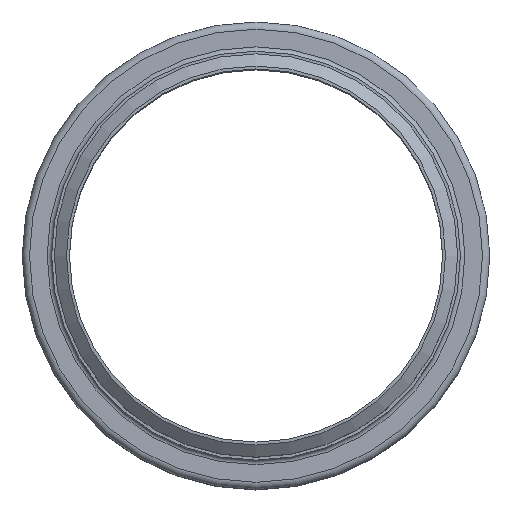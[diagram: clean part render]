
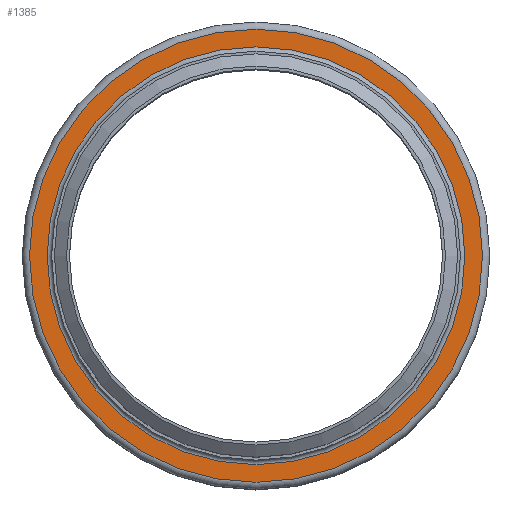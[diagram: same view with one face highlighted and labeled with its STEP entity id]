
A CAD part, top view. The second image highlights one B-rep face of the part: STEP entity #1385.
In plain terms, the highlighted planar face has unit normal (0, 0, 1).
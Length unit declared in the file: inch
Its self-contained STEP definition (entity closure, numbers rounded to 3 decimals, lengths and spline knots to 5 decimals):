
#155=FACE_BOUND('',#416,.T.);
#256=FACE_OUTER_BOUND('',#415,.T.);
#415=EDGE_LOOP('',(#1168));
#416=EDGE_LOOP('',(#1169));
#584=CIRCLE('',#1684,4.4675);
#585=CIRCLE('',#1686,4.845);
#703=VERTEX_POINT('',#2631);
#704=VERTEX_POINT('',#2635);
#862=EDGE_CURVE('',#703,#703,#584,.T.);
#863=EDGE_CURVE('',#704,#704,#585,.T.);
#1168=ORIENTED_EDGE('',*,*,#863,.F.);
#1169=ORIENTED_EDGE('',*,*,#862,.T.);
#1284=PLANE('',#1685);
#1385=ADVANCED_FACE('',(#256,#155),#1284,.T.);
#1684=AXIS2_PLACEMENT_3D('',#2633,#2197,#2198);
#1685=AXIS2_PLACEMENT_3D('',#2634,#2199,#2200);
#1686=AXIS2_PLACEMENT_3D('',#2636,#2201,#2202);
#2197=DIRECTION('center_axis',(0.,0.,-1.));
#2198=DIRECTION('ref_axis',(1.,0.,0.));
#2199=DIRECTION('center_axis',(0.,0.,1.));
#2200=DIRECTION('ref_axis',(1.,0.,0.));
#2201=DIRECTION('center_axis',(0.,0.,-1.));
#2202=DIRECTION('ref_axis',(1.,0.,0.));
#2631=CARTESIAN_POINT('',(4.4675,0.,-0.095));
#2633=CARTESIAN_POINT('Origin',(0.,0.,-0.095));
#2634=CARTESIAN_POINT('Origin',(0.,4.845,-0.095));
#2635=CARTESIAN_POINT('',(4.845,0.,-0.095));
#2636=CARTESIAN_POINT('Origin',(0.,0.,-0.095));
